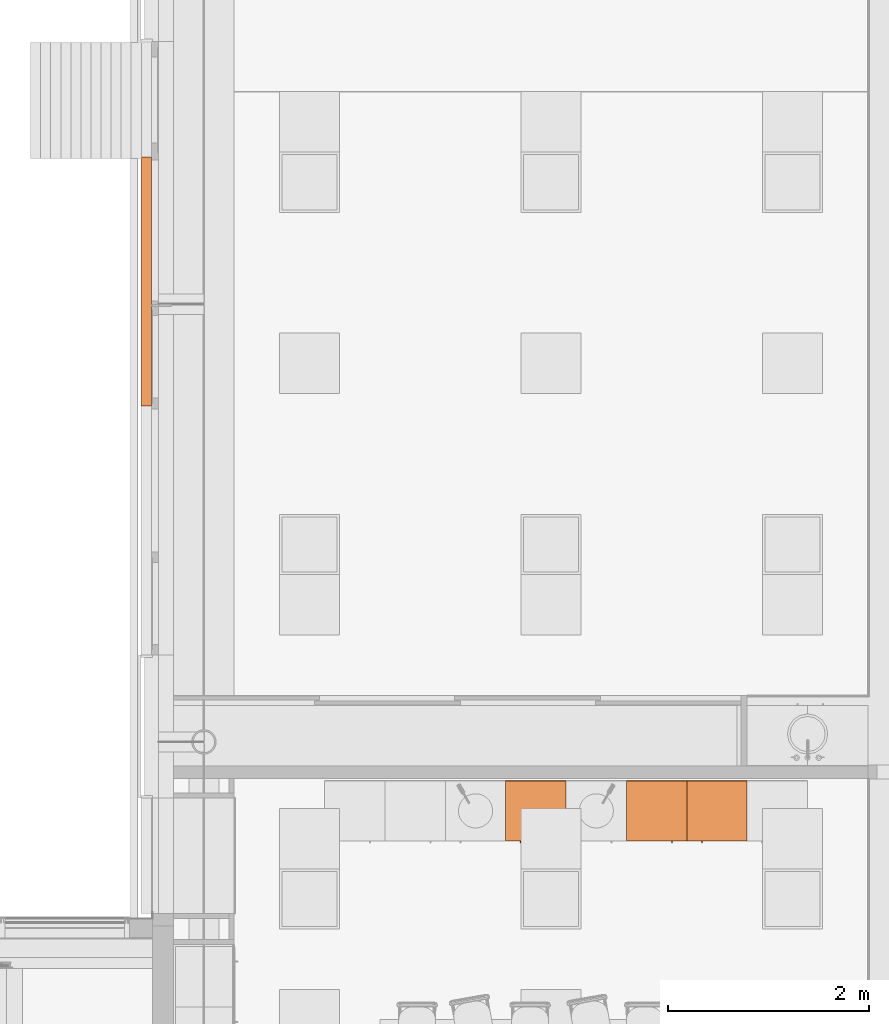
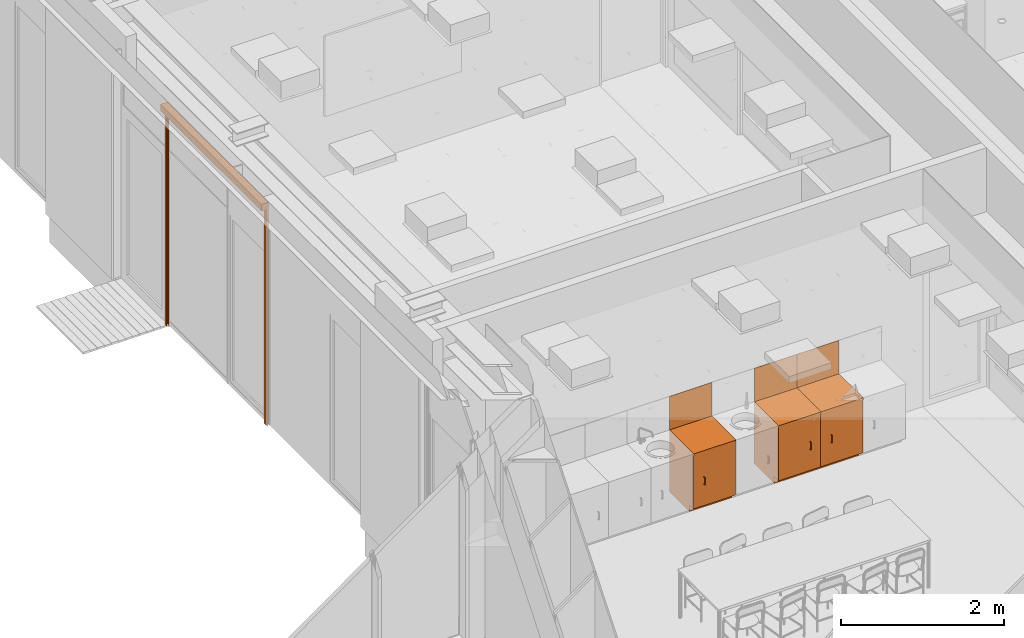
# One storey, part 345 of 347: 4 proxies.
"""IFC2X3 building model written with IfcOpenShell, lengths in millimetres."""

from ifc_helpers import new_model, entity, si_unit, converted_unit, derived_unit, money_unit, direction, frame, origin_with_axes, place, context, subcontext, project, spatial, open_shell, faceted_brep, surface_model, type_object, element, save


model = new_model("IFC2X3")

# Units and contexts
model_context = context("Model", 3, precision=0.01, world=origin_with_axes(), true_north=direction((0.0, 1.0)))
plan_context = context("Plan", 3, precision=0.01, world=origin_with_axes(), true_north=direction((0.0, 1.0)))
body_context = subcontext(model_context, "Body", "Model", "MODEL_VIEW")
ifc_project = project(units=[si_unit("LENGTHUNIT", "METRE", prefix="MILLI"), si_unit("AREAUNIT", "SQUARE_METRE"), si_unit("VOLUMEUNIT", "CUBIC_METRE"), converted_unit("PLANEANGLEUNIT", "DEGREE", entity("IfcPlaneAngleMeasure", 0.0174532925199), si_unit("PLANEANGLEUNIT", "RADIAN"), dimensions=[0, 0, 0, 0, 0, 0, 0]), money_unit("EUR"), converted_unit("TIMEUNIT", "Year", entity("IfcTimeMeasure", 31556926.0), si_unit("TIMEUNIT", "SECOND"), dimensions=[0, 0, 1, 0, 0, 0, 0]), si_unit("MASSUNIT", "GRAM", prefix="KILO"), si_unit("THERMODYNAMICTEMPERATUREUNIT", "DEGREE_CELSIUS"), si_unit("LUMINOUSINTENSITYUNIT", "LUMEN"), si_unit("ENERGYUNIT", "JOULE", prefix="MEGA"), derived_unit("THERMALCONDUCTANCEUNIT", [(si_unit("POWERUNIT", "WATT"), 1), (si_unit("LENGTHUNIT", "METRE"), -1), (si_unit("THERMODYNAMICTEMPERATUREUNIT", "KELVIN"), -1)]), derived_unit("SPECIFICHEATCAPACITYUNIT", [(si_unit("ENERGYUNIT", "JOULE"), 1), (si_unit("MASSUNIT", "GRAM", prefix="KILO"), -1), (si_unit("THERMODYNAMICTEMPERATUREUNIT", "KELVIN"), -1)]), derived_unit("MASSDENSITYUNIT", [(si_unit("MASSUNIT", "GRAM", prefix="KILO"), 1), (si_unit("VOLUMEUNIT", "CUBIC_METRE"), -1)])], contexts=[model_context, plan_context])

# Site, building, storey
site_placement = place(None, origin_with_axes())
site = spatial("IfcSite", under=ifc_project, at=site_placement, Name="Site", CompositionType="ELEMENT")
building_placement = place(site_placement, origin_with_axes())
building = spatial("IfcBuilding", under=site, at=building_placement, Name="Naam gebouw", CompositionType="ELEMENT")
storey_placement = place(building_placement, origin_with_axes())
storey = spatial("IfcBuildingStorey", under=building, at=storey_placement, Name="begane grond", CompositionType="ELEMENT", Elevation=0.0)

# Proxies
building_element_proxy_type_1 = type_object("IfcBuildingElementProxyType", Name="Onderkast recht 25", PredefinedType="NOTDEFINED")
proxy_1_placement = place(storey_placement, frame((28775.0, 19967.5, 0.0), z_axis=(0.0, 0.0, 1.0), x_axis=(1.0, 0.0, 0.0)))
element("IfcBuildingElementProxy", 1, at=proxy_1_placement, inside=storey, type_object=building_element_proxy_type_1, Name="_73 pantryblok", context=body_context, shape_type="Brep", body=[
    faceted_brep([(600.0, -492.0, 2.0), (600.0, 0.0, 2.0), (600.0, 0.0, 100.0), (600.0, -492.0, 100.0), (0.0, 0.0, 2.0), (0.0, -492.0, 2.0), (0.0, 0.0, 100.0), (0.0, -492.0, 100.0)], [[[0, 1, 2, 3]], [[4, 1, 0, 5]], [[1, 4, 6, 2]], [[6, 7, 3, 2]], [[5, 0, 3, 7]], [[4, 5, 7, 6]]]),
    faceted_brep([(0.0, -600.0, 900.0), (600.0, -600.0, 900.0), (600.0, -600.0, 930.0), (0.0, -600.0, 930.0), (0.0, 0.0, 900.0), (600.0, 0.0, 900.0), (600.0, 0.0, 930.0), (0.0, 0.0, 930.0)], [[[0, 1, 2, 3]], [[0, 4, 5, 1]], [[1, 5, 6, 2]], [[3, 2, 6, 7]], [[4, 0, 3, 7]], [[5, 4, 7, 6]]]),
    faceted_brep([(600.0, 0.0, 930.0), (600.0, -6.0, 930.0), (0.0, -6.0, 930.0), (0.0, 0.0, 930.0), (600.0, 0.0, 1430.0), (600.0, -6.0, 1430.0), (0.0, -6.0, 1430.0), (0.0, 0.0, 1430.0)], [[[0, 1, 2, 3]], [[0, 4, 5, 1]], [[1, 5, 6, 2]], [[3, 2, 6, 7]], [[4, 0, 3, 7]], [[5, 4, 7, 6]]]),
    faceted_brep([(446.0, -590.0, 416.0), (446.0, -590.0, 426.0), (456.0, -590.0, 426.0), (456.0, -590.0, 416.0), (446.0, -600.0, 416.0), (446.0, -603.472963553, 416.30384494), (446.0, -606.840402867, 417.206147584), (446.0, -610.0, 418.679491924), (446.0, -612.855752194, 420.679111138), (446.0, -615.320888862, 423.144247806), (446.0, -617.320508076, 426.0), (446.0, -618.793852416, 429.159597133), (446.0, -619.69615506, 432.527036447), (446.0, -620.0, 436.0), (446.0, -620.0, 516.0), (446.0, -619.69615506, 519.472963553), (446.0, -618.793852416, 522.840402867), (446.0, -617.320508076, 526.0), (446.0, -615.320888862, 528.855752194), (446.0, -612.855752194, 531.320888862), (446.0, -610.0, 533.320508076), (446.0, -606.840402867, 534.793852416), (446.0, -603.472963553, 535.69615506), (446.0, -600.0, 536.0), (446.0, -590.0, 536.0), (446.0, -590.0, 526.0), (446.0, -600.0, 526.0), (446.0, -601.736481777, 525.84807753), (446.0, -603.420201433, 525.396926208), (446.0, -605.0, 524.660254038), (446.0, -606.427876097, 523.660444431), (446.0, -607.660444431, 522.427876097), (446.0, -608.660254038, 521.0), (446.0, -609.396926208, 519.420201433), (446.0, -609.84807753, 517.736481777), (446.0, -610.0, 516.0), (446.0, -610.0, 436.0), (446.0, -609.84807753, 434.263518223), (446.0, -609.396926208, 432.579798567), (446.0, -608.660254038, 431.0), (446.0, -607.660444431, 429.572123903), (446.0, -606.427876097, 428.339555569), (446.0, -605.0, 427.339745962), (446.0, -603.420201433, 426.603073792), (446.0, -601.736481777, 426.15192247), (446.0, -600.0, 426.0), (456.0, -600.0, 426.0), (456.0, -601.736481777, 426.15192247), (456.0, -603.420201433, 426.603073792), (456.0, -605.0, 427.339745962), (456.0, -606.427876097, 428.339555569), (456.0, -607.660444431, 429.572123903), (456.0, -608.660254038, 431.0), (456.0, -609.396926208, 432.579798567), (456.0, -609.84807753, 434.263518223), (456.0, -610.0, 436.0), (456.0, -610.0, 516.0), (456.0, -609.84807753, 517.736481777), (456.0, -609.396926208, 519.420201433), (456.0, -608.660254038, 521.0), (456.0, -607.660444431, 522.427876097), (456.0, -606.427876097, 523.660444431), (456.0, -605.0, 524.660254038), (456.0, -603.420201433, 525.396926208), (456.0, -601.736481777, 525.84807753), (456.0, -600.0, 526.0), (456.0, -590.0, 526.0), (456.0, -590.0, 536.0), (456.0, -600.0, 536.0), (456.0, -603.472963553, 535.69615506), (456.0, -606.840402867, 534.793852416), (456.0, -610.0, 533.320508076), (456.0, -612.855752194, 531.320888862), (456.0, -615.320888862, 528.855752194), (456.0, -617.320508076, 526.0), (456.0, -618.793852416, 522.840402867), (456.0, -619.69615506, 519.472963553), (456.0, -620.0, 516.0), (456.0, -620.0, 436.0), (456.0, -619.69615506, 432.527036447), (456.0, -618.793852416, 429.159597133), (456.0, -617.320508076, 426.0), (456.0, -615.320888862, 423.144247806), (456.0, -612.855752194, 420.679111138), (456.0, -610.0, 418.679491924), (456.0, -606.840402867, 417.206147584), (456.0, -603.472963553, 416.30384494), (456.0, -600.0, 416.0)], [[[0, 1, 2, 3]], [[0, 4, 5, 6, 7, 8, 9, 10, 11, 12, 13, 14, 15, 16, 17, 18, 19, 20, 21, 22, 23, 24, 25, 26, 27, 28, 29, 30, 31, 32, 33, 34, 35, 36, 37, 38, 39, 40, 41, 42, 43, 44, 45, 1]], [[1, 45, 46, 2]], [[3, 2, 46, 47, 48, 49, 50, 51, 52, 53, 54, 55, 56, 57, 58, 59, 60, 61, 62, 63, 64, 65, 66, 67, 68, 69, 70, 71, 72, 73, 74, 75, 76, 77, 78, 79, 80, 81, 82, 83, 84, 85, 86, 87]], [[4, 0, 3, 87]], [[5, 4, 87, 86]], [[6, 5, 86, 85]], [[7, 6, 85, 84]], [[8, 7, 84, 83]], [[9, 8, 83, 82]], [[10, 9, 82, 81]], [[11, 10, 81, 80]], [[12, 11, 80, 79]], [[13, 12, 79, 78]], [[14, 13, 78, 77]], [[15, 14, 77, 76]], [[16, 15, 76, 75]], [[17, 16, 75, 74]], [[18, 17, 74, 73]], [[19, 18, 73, 72]], [[20, 19, 72, 71]], [[21, 20, 71, 70]], [[22, 21, 70, 69]], [[23, 22, 69, 68]], [[24, 23, 68, 67]], [[25, 24, 67, 66]], [[26, 25, 66, 65]], [[27, 26, 65, 64]], [[28, 27, 64, 63]], [[29, 28, 63, 62]], [[30, 29, 62, 61]], [[31, 30, 61, 60]], [[32, 31, 60, 59]], [[33, 32, 59, 58]], [[34, 33, 58, 57]], [[35, 34, 57, 56]], [[36, 35, 56, 55]], [[37, 36, 55, 54]], [[38, 37, 54, 53]], [[39, 38, 53, 52]], [[40, 39, 52, 51]], [[41, 40, 51, 50]], [[42, 41, 50, 49]], [[43, 42, 49, 48]], [[44, 43, 48, 47]], [[45, 44, 47, 46]]]),
    faceted_brep([(1.0, -572.0, 101.0), (599.0, -572.0, 101.0), (599.0, -590.0, 101.0), (1.0, -590.0, 101.0), (1.0, -572.0, 899.0), (599.0, -572.0, 899.0), (599.0, -590.0, 899.0), (1.0, -590.0, 899.0)], [[[0, 1, 2, 3]], [[0, 4, 5, 1]], [[1, 5, 6, 2]], [[3, 2, 6, 7]], [[4, 0, 3, 7]], [[5, 4, 7, 6]]]),
    faceted_brep([(18.0, -572.0, 100.0), (582.0, -572.0, 100.0), (582.0, -572.0, 118.0), (18.0, -572.0, 118.0), (18.0, 0.0, 100.0), (582.0, 0.0, 100.0), (582.0, 0.0, 118.0), (18.0, 0.0, 118.0)], [[[0, 1, 2, 3]], [[0, 4, 5, 1]], [[1, 5, 6, 2]], [[3, 2, 6, 7]], [[4, 0, 3, 7]], [[5, 4, 7, 6]]]),
    faceted_brep([(18.0, -572.0, 882.0), (18.0, -512.0, 882.0), (582.0, -512.0, 882.0), (582.0, -572.0, 882.0), (18.0, -572.0, 900.0), (18.0, -512.0, 900.0), (582.0, -512.0, 900.0), (582.0, -572.0, 900.0)], [[[0, 1, 2, 3]], [[0, 4, 5, 1]], [[1, 5, 6, 2]], [[3, 2, 6, 7]], [[4, 0, 3, 7]], [[5, 4, 7, 6]]]),
    faceted_brep([(582.0, 0.0, 882.0), (582.0, -60.0, 882.0), (18.0, -60.0, 882.0), (18.0, 0.0, 882.0), (582.0, 0.0, 900.0), (582.0, -60.0, 900.0), (18.0, -60.0, 900.0), (18.0, 0.0, 900.0)], [[[0, 1, 2, 3]], [[0, 4, 5, 1]], [[1, 5, 6, 2]], [[3, 2, 6, 7]], [[4, 0, 3, 7]], [[5, 4, 7, 6]]]),
    faceted_brep([(0.0, 0.0, 100.0), (0.0, -572.0, 100.0), (0.0, -572.0, 900.0), (0.0, 0.0, 900.0), (18.0, 0.0, 100.0), (18.0, -572.0, 100.0), (18.0, -572.0, 900.0), (18.0, 0.0, 900.0)], [[[0, 1, 2, 3]], [[0, 4, 5, 1]], [[1, 5, 6, 2]], [[3, 2, 6, 7]], [[4, 0, 3, 7]], [[5, 4, 7, 6]]]),
    faceted_brep([(600.0, -572.0, 100.0), (600.0, 0.0, 100.0), (600.0, 0.0, 900.0), (600.0, -572.0, 900.0), (582.0, -572.0, 100.0), (582.0, 0.0, 100.0), (582.0, 0.0, 900.0), (582.0, -572.0, 900.0)], [[[0, 1, 2, 3]], [[0, 4, 5, 1]], [[1, 5, 6, 2]], [[3, 2, 6, 7]], [[4, 0, 3, 7]], [[5, 4, 7, 6]]]),
    faceted_brep([(582.0, -9.0, 118.0), (18.0, -9.0, 118.0), (18.0, -9.0, 882.0), (582.0, -9.0, 882.0), (582.0, -18.0, 118.0), (18.0, -18.0, 118.0), (18.0, -18.0, 882.0), (582.0, -18.0, 882.0)], [[[0, 1, 2, 3]], [[0, 4, 5, 1]], [[1, 5, 6, 2]], [[3, 2, 6, 7]], [[4, 0, 3, 7]], [[5, 4, 7, 6]]]),
])
proxy_2_placement = place(storey_placement, frame((29975.0, 19967.5, 0.0), z_axis=(0.0, 0.0, 1.0), x_axis=(1.0, 0.0, 0.0)))
element("IfcBuildingElementProxy", 2, at=proxy_2_placement, inside=storey, type_object=building_element_proxy_type_1, Name="_73 pantryblok", context=body_context, shape_type="Brep", body=[
    faceted_brep([(0.0, -492.0, 2.0), (0.0, 0.0, 2.0), (0.0, 0.0, 100.0), (0.0, -492.0, 100.0), (-600.0, 0.0, 2.0), (-600.0, -492.0, 2.0), (-600.0, 0.0, 100.0), (-600.0, -492.0, 100.0)], [[[0, 1, 2, 3]], [[4, 1, 0, 5]], [[1, 4, 6, 2]], [[7, 3, 2, 6]], [[5, 0, 3, 7]], [[4, 5, 7, 6]]]),
    faceted_brep([(0.0, -600.0, 900.0), (0.0, -600.0, 930.0), (-600.0, -600.0, 930.0), (-600.0, -600.0, 900.0), (0.0, 0.0, 900.0), (0.0, 0.0, 930.0), (-600.0, 0.0, 930.0), (-600.0, 0.0, 900.0)], [[[0, 1, 2, 3]], [[4, 5, 1, 0]], [[1, 5, 6, 2]], [[3, 2, 6, 7]], [[0, 3, 7, 4]], [[7, 6, 5, 4]]]),
    faceted_brep([(-600.0, 0.0, 930.0), (0.0, 0.0, 930.0), (0.0, -6.0, 930.0), (-600.0, -6.0, 930.0), (-600.0, 0.0, 1430.0), (0.0, 0.0, 1430.0), (0.0, -6.0, 1430.0), (-600.0, -6.0, 1430.0)], [[[0, 1, 2, 3]], [[4, 5, 1, 0]], [[1, 5, 6, 2]], [[3, 2, 6, 7]], [[0, 3, 7, 4]], [[7, 6, 5, 4]]]),
    faceted_brep([(-446.0, -590.0, 416.0), (-456.0, -590.0, 416.0), (-456.0, -590.0, 426.0), (-446.0, -590.0, 426.0), (-446.0, -600.0, 416.0), (-456.0, -600.0, 416.0), (-456.0, -603.472963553, 416.30384494), (-456.0, -606.840402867, 417.206147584), (-456.0, -610.0, 418.679491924), (-456.0, -612.855752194, 420.679111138), (-456.0, -615.320888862, 423.144247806), (-456.0, -617.320508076, 426.0), (-456.0, -618.793852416, 429.159597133), (-456.0, -619.69615506, 432.527036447), (-456.0, -620.0, 436.0), (-456.0, -620.0, 516.0), (-456.0, -619.69615506, 519.472963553), (-456.0, -618.793852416, 522.840402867), (-456.0, -617.320508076, 526.0), (-456.0, -615.320888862, 528.855752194), (-456.0, -612.855752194, 531.320888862), (-456.0, -610.0, 533.320508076), (-456.0, -606.840402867, 534.793852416), (-456.0, -603.472963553, 535.69615506), (-456.0, -600.0, 536.0), (-456.0, -590.0, 536.0), (-456.0, -590.0, 526.0), (-456.0, -600.0, 526.0), (-456.0, -601.736481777, 525.84807753), (-456.0, -603.420201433, 525.396926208), (-456.0, -605.0, 524.660254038), (-456.0, -606.427876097, 523.660444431), (-456.0, -607.660444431, 522.427876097), (-456.0, -608.660254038, 521.0), (-456.0, -609.396926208, 519.420201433), (-456.0, -609.84807753, 517.736481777), (-456.0, -610.0, 516.0), (-456.0, -610.0, 436.0), (-456.0, -609.84807753, 434.263518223), (-456.0, -609.396926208, 432.579798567), (-456.0, -608.660254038, 431.0), (-456.0, -607.660444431, 429.572123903), (-456.0, -606.427876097, 428.339555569), (-456.0, -605.0, 427.339745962), (-456.0, -603.420201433, 426.603073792), (-456.0, -601.736481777, 426.15192247), (-456.0, -600.0, 426.0), (-446.0, -600.0, 426.0), (-446.0, -601.736481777, 426.15192247), (-446.0, -603.420201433, 426.603073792), (-446.0, -605.0, 427.339745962), (-446.0, -606.427876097, 428.339555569), (-446.0, -607.660444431, 429.572123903), (-446.0, -608.660254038, 431.0), (-446.0, -609.396926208, 432.579798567), (-446.0, -609.84807753, 434.263518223), (-446.0, -610.0, 436.0), (-446.0, -610.0, 516.0), (-446.0, -609.84807753, 517.736481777), (-446.0, -609.396926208, 519.420201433), (-446.0, -608.660254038, 521.0), (-446.0, -607.660444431, 522.427876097), (-446.0, -606.427876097, 523.660444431), (-446.0, -605.0, 524.660254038), (-446.0, -603.420201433, 525.396926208), (-446.0, -601.736481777, 525.84807753), (-446.0, -600.0, 526.0), (-446.0, -590.0, 526.0), (-446.0, -590.0, 536.0), (-446.0, -600.0, 536.0), (-446.0, -603.472963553, 535.69615506), (-446.0, -606.840402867, 534.793852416), (-446.0, -610.0, 533.320508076), (-446.0, -612.855752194, 531.320888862), (-446.0, -615.320888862, 528.855752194), (-446.0, -617.320508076, 526.0), (-446.0, -618.793852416, 522.840402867), (-446.0, -619.69615506, 519.472963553), (-446.0, -620.0, 516.0), (-446.0, -620.0, 436.0), (-446.0, -619.69615506, 432.527036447), (-446.0, -618.793852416, 429.159597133), (-446.0, -617.320508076, 426.0), (-446.0, -615.320888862, 423.144247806), (-446.0, -612.855752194, 420.679111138), (-446.0, -610.0, 418.679491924), (-446.0, -606.840402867, 417.206147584), (-446.0, -603.472963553, 416.30384494)], [[[0, 1, 2, 3]], [[4, 5, 1, 0]], [[1, 5, 6, 7, 8, 9, 10, 11, 12, 13, 14, 15, 16, 17, 18, 19, 20, 21, 22, 23, 24, 25, 26, 27, 28, 29, 30, 31, 32, 33, 34, 35, 36, 37, 38, 39, 40, 41, 42, 43, 44, 45, 46, 2]], [[3, 2, 46, 47]], [[0, 3, 47, 48, 49, 50, 51, 52, 53, 54, 55, 56, 57, 58, 59, 60, 61, 62, 63, 64, 65, 66, 67, 68, 69, 70, 71, 72, 73, 74, 75, 76, 77, 78, 79, 80, 81, 82, 83, 84, 85, 86, 87, 4]], [[87, 6, 5, 4]], [[86, 7, 6, 87]], [[85, 8, 7, 86]], [[84, 9, 8, 85]], [[83, 10, 9, 84]], [[82, 11, 10, 83]], [[81, 12, 11, 82]], [[80, 13, 12, 81]], [[79, 14, 13, 80]], [[78, 15, 14, 79]], [[77, 16, 15, 78]], [[76, 17, 16, 77]], [[75, 18, 17, 76]], [[74, 19, 18, 75]], [[73, 20, 19, 74]], [[72, 21, 20, 73]], [[71, 22, 21, 72]], [[70, 23, 22, 71]], [[69, 24, 23, 70]], [[68, 25, 24, 69]], [[67, 26, 25, 68]], [[66, 27, 26, 67]], [[65, 28, 27, 66]], [[64, 29, 28, 65]], [[63, 30, 29, 64]], [[62, 31, 30, 63]], [[61, 32, 31, 62]], [[60, 33, 32, 61]], [[59, 34, 33, 60]], [[58, 35, 34, 59]], [[57, 36, 35, 58]], [[56, 37, 36, 57]], [[55, 38, 37, 56]], [[54, 39, 38, 55]], [[53, 40, 39, 54]], [[52, 41, 40, 53]], [[51, 42, 41, 52]], [[50, 43, 42, 51]], [[49, 44, 43, 50]], [[48, 45, 44, 49]], [[47, 46, 45, 48]]]),
    faceted_brep([(-1.0, -572.0, 101.0), (-1.0, -590.0, 101.0), (-599.0, -590.0, 101.0), (-599.0, -572.0, 101.0), (-1.0, -572.0, 899.0), (-1.0, -590.0, 899.0), (-599.0, -590.0, 899.0), (-599.0, -572.0, 899.0)], [[[0, 1, 2, 3]], [[4, 5, 1, 0]], [[1, 5, 6, 2]], [[3, 2, 6, 7]], [[0, 3, 7, 4]], [[7, 6, 5, 4]]]),
    faceted_brep([(-18.0, -572.0, 100.0), (-18.0, -572.0, 118.0), (-582.0, -572.0, 118.0), (-582.0, -572.0, 100.0), (-18.0, 0.0, 100.0), (-18.0, 0.0, 118.0), (-582.0, 0.0, 118.0), (-582.0, 0.0, 100.0)], [[[0, 1, 2, 3]], [[4, 5, 1, 0]], [[1, 5, 6, 2]], [[3, 2, 6, 7]], [[0, 3, 7, 4]], [[7, 6, 5, 4]]]),
    faceted_brep([(-18.0, -572.0, 882.0), (-582.0, -572.0, 882.0), (-582.0, -512.0, 882.0), (-18.0, -512.0, 882.0), (-18.0, -572.0, 900.0), (-582.0, -572.0, 900.0), (-582.0, -512.0, 900.0), (-18.0, -512.0, 900.0)], [[[0, 1, 2, 3]], [[4, 5, 1, 0]], [[1, 5, 6, 2]], [[3, 2, 6, 7]], [[0, 3, 7, 4]], [[7, 6, 5, 4]]]),
    faceted_brep([(-582.0, 0.0, 882.0), (-18.0, 0.0, 882.0), (-18.0, -60.0, 882.0), (-582.0, -60.0, 882.0), (-582.0, 0.0, 900.0), (-18.0, 0.0, 900.0), (-18.0, -60.0, 900.0), (-582.0, -60.0, 900.0)], [[[0, 1, 2, 3]], [[4, 5, 1, 0]], [[1, 5, 6, 2]], [[3, 2, 6, 7]], [[0, 3, 7, 4]], [[7, 6, 5, 4]]]),
    faceted_brep([(0.0, 0.0, 100.0), (0.0, 0.0, 900.0), (0.0, -572.0, 900.0), (0.0, -572.0, 100.0), (-18.0, 0.0, 100.0), (-18.0, 0.0, 900.0), (-18.0, -572.0, 900.0), (-18.0, -572.0, 100.0)], [[[0, 1, 2, 3]], [[4, 5, 1, 0]], [[1, 5, 6, 2]], [[3, 2, 6, 7]], [[0, 3, 7, 4]], [[7, 6, 5, 4]]]),
    faceted_brep([(-600.0, -572.0, 100.0), (-600.0, -572.0, 900.0), (-600.0, 0.0, 900.0), (-600.0, 0.0, 100.0), (-582.0, -572.0, 100.0), (-582.0, -572.0, 900.0), (-582.0, 0.0, 900.0), (-582.0, 0.0, 100.0)], [[[0, 1, 2, 3]], [[4, 5, 1, 0]], [[1, 5, 6, 2]], [[3, 2, 6, 7]], [[0, 3, 7, 4]], [[7, 6, 5, 4]]]),
    faceted_brep([(-582.0, -9.0, 118.0), (-582.0, -9.0, 882.0), (-18.0, -9.0, 882.0), (-18.0, -9.0, 118.0), (-582.0, -18.0, 118.0), (-582.0, -18.0, 882.0), (-18.0, -18.0, 882.0), (-18.0, -18.0, 118.0)], [[[0, 1, 2, 3]], [[4, 5, 1, 0]], [[1, 5, 6, 2]], [[3, 2, 6, 7]], [[0, 3, 7, 4]], [[7, 6, 5, 4]]]),
])
proxy_3_placement = place(storey_placement, frame((28175.0, 19967.5, 0.0), z_axis=(0.0, 0.0, 1.0), x_axis=(1.0, 0.0, 0.0)))
element("IfcBuildingElementProxy", 3, at=proxy_3_placement, inside=storey, type_object=building_element_proxy_type_1, Name="_73 pantryblok", context=body_context, shape_type="Brep", body=[
    faceted_brep([(0.0, -492.0, 2.0), (0.0, 0.0, 2.0), (0.0, 0.0, 100.0), (0.0, -492.0, 100.0), (-600.0, 0.0, 2.0), (-600.0, -492.0, 2.0), (-600.0, 0.0, 100.0), (-600.0, -492.0, 100.0)], [[[0, 1, 2, 3]], [[4, 1, 0, 5]], [[1, 4, 6, 2]], [[7, 3, 2, 6]], [[5, 0, 3, 7]], [[4, 5, 7, 6]]]),
    faceted_brep([(0.0, -600.0, 900.0), (0.0, -600.0, 930.0), (-600.0, -600.0, 930.0), (-600.0, -600.0, 900.0), (0.0, 0.0, 900.0), (0.0, 0.0, 930.0), (-600.0, 0.0, 930.0), (-600.0, 0.0, 900.0)], [[[0, 1, 2, 3]], [[4, 5, 1, 0]], [[1, 5, 6, 2]], [[3, 2, 6, 7]], [[0, 3, 7, 4]], [[7, 6, 5, 4]]]),
    faceted_brep([(-600.0, 0.0, 930.0), (0.0, 0.0, 930.0), (0.0, -6.0, 930.0), (-600.0, -6.0, 930.0), (-600.0, 0.0, 1430.0), (0.0, 0.0, 1430.0), (0.0, -6.0, 1430.0), (-600.0, -6.0, 1430.0)], [[[0, 1, 2, 3]], [[4, 5, 1, 0]], [[1, 5, 6, 2]], [[3, 2, 6, 7]], [[0, 3, 7, 4]], [[7, 6, 5, 4]]]),
    faceted_brep([(-446.0, -590.0, 416.0), (-456.0, -590.0, 416.0), (-456.0, -590.0, 426.0), (-446.0, -590.0, 426.0), (-446.0, -600.0, 416.0), (-456.0, -600.0, 416.0), (-456.0, -603.472963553, 416.30384494), (-456.0, -606.840402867, 417.206147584), (-456.0, -610.0, 418.679491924), (-456.0, -612.855752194, 420.679111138), (-456.0, -615.320888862, 423.144247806), (-456.0, -617.320508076, 426.0), (-456.0, -618.793852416, 429.159597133), (-456.0, -619.69615506, 432.527036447), (-456.0, -620.0, 436.0), (-456.0, -620.0, 516.0), (-456.0, -619.69615506, 519.472963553), (-456.0, -618.793852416, 522.840402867), (-456.0, -617.320508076, 526.0), (-456.0, -615.320888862, 528.855752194), (-456.0, -612.855752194, 531.320888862), (-456.0, -610.0, 533.320508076), (-456.0, -606.840402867, 534.793852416), (-456.0, -603.472963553, 535.69615506), (-456.0, -600.0, 536.0), (-456.0, -590.0, 536.0), (-456.0, -590.0, 526.0), (-456.0, -600.0, 526.0), (-456.0, -601.736481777, 525.84807753), (-456.0, -603.420201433, 525.396926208), (-456.0, -605.0, 524.660254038), (-456.0, -606.427876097, 523.660444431), (-456.0, -607.660444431, 522.427876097), (-456.0, -608.660254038, 521.0), (-456.0, -609.396926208, 519.420201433), (-456.0, -609.84807753, 517.736481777), (-456.0, -610.0, 516.0), (-456.0, -610.0, 436.0), (-456.0, -609.84807753, 434.263518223), (-456.0, -609.396926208, 432.579798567), (-456.0, -608.660254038, 431.0), (-456.0, -607.660444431, 429.572123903), (-456.0, -606.427876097, 428.339555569), (-456.0, -605.0, 427.339745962), (-456.0, -603.420201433, 426.603073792), (-456.0, -601.736481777, 426.15192247), (-456.0, -600.0, 426.0), (-446.0, -600.0, 426.0), (-446.0, -601.736481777, 426.15192247), (-446.0, -603.420201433, 426.603073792), (-446.0, -605.0, 427.339745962), (-446.0, -606.427876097, 428.339555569), (-446.0, -607.660444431, 429.572123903), (-446.0, -608.660254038, 431.0), (-446.0, -609.396926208, 432.579798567), (-446.0, -609.84807753, 434.263518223), (-446.0, -610.0, 436.0), (-446.0, -610.0, 516.0), (-446.0, -609.84807753, 517.736481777), (-446.0, -609.396926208, 519.420201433), (-446.0, -608.660254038, 521.0), (-446.0, -607.660444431, 522.427876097), (-446.0, -606.427876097, 523.660444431), (-446.0, -605.0, 524.660254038), (-446.0, -603.420201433, 525.396926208), (-446.0, -601.736481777, 525.84807753), (-446.0, -600.0, 526.0), (-446.0, -590.0, 526.0), (-446.0, -590.0, 536.0), (-446.0, -600.0, 536.0), (-446.0, -603.472963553, 535.69615506), (-446.0, -606.840402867, 534.793852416), (-446.0, -610.0, 533.320508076), (-446.0, -612.855752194, 531.320888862), (-446.0, -615.320888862, 528.855752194), (-446.0, -617.320508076, 526.0), (-446.0, -618.793852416, 522.840402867), (-446.0, -619.69615506, 519.472963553), (-446.0, -620.0, 516.0), (-446.0, -620.0, 436.0), (-446.0, -619.69615506, 432.527036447), (-446.0, -618.793852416, 429.159597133), (-446.0, -617.320508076, 426.0), (-446.0, -615.320888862, 423.144247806), (-446.0, -612.855752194, 420.679111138), (-446.0, -610.0, 418.679491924), (-446.0, -606.840402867, 417.206147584), (-446.0, -603.472963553, 416.30384494)], [[[0, 1, 2, 3]], [[4, 5, 1, 0]], [[1, 5, 6, 7, 8, 9, 10, 11, 12, 13, 14, 15, 16, 17, 18, 19, 20, 21, 22, 23, 24, 25, 26, 27, 28, 29, 30, 31, 32, 33, 34, 35, 36, 37, 38, 39, 40, 41, 42, 43, 44, 45, 46, 2]], [[3, 2, 46, 47]], [[0, 3, 47, 48, 49, 50, 51, 52, 53, 54, 55, 56, 57, 58, 59, 60, 61, 62, 63, 64, 65, 66, 67, 68, 69, 70, 71, 72, 73, 74, 75, 76, 77, 78, 79, 80, 81, 82, 83, 84, 85, 86, 87, 4]], [[87, 6, 5, 4]], [[86, 7, 6, 87]], [[85, 8, 7, 86]], [[84, 9, 8, 85]], [[83, 10, 9, 84]], [[82, 11, 10, 83]], [[81, 12, 11, 82]], [[80, 13, 12, 81]], [[79, 14, 13, 80]], [[78, 15, 14, 79]], [[77, 16, 15, 78]], [[76, 17, 16, 77]], [[75, 18, 17, 76]], [[74, 19, 18, 75]], [[73, 20, 19, 74]], [[72, 21, 20, 73]], [[71, 22, 21, 72]], [[70, 23, 22, 71]], [[69, 24, 23, 70]], [[68, 25, 24, 69]], [[67, 26, 25, 68]], [[66, 27, 26, 67]], [[65, 28, 27, 66]], [[64, 29, 28, 65]], [[63, 30, 29, 64]], [[62, 31, 30, 63]], [[61, 32, 31, 62]], [[60, 33, 32, 61]], [[59, 34, 33, 60]], [[58, 35, 34, 59]], [[57, 36, 35, 58]], [[56, 37, 36, 57]], [[55, 38, 37, 56]], [[54, 39, 38, 55]], [[53, 40, 39, 54]], [[52, 41, 40, 53]], [[51, 42, 41, 52]], [[50, 43, 42, 51]], [[49, 44, 43, 50]], [[48, 45, 44, 49]], [[47, 46, 45, 48]]]),
    faceted_brep([(-1.0, -572.0, 101.0), (-1.0, -590.0, 101.0), (-599.0, -590.0, 101.0), (-599.0, -572.0, 101.0), (-1.0, -572.0, 899.0), (-1.0, -590.0, 899.0), (-599.0, -590.0, 899.0), (-599.0, -572.0, 899.0)], [[[0, 1, 2, 3]], [[4, 5, 1, 0]], [[1, 5, 6, 2]], [[3, 2, 6, 7]], [[0, 3, 7, 4]], [[7, 6, 5, 4]]]),
    faceted_brep([(-18.0, -572.0, 100.0), (-18.0, -572.0, 118.0), (-582.0, -572.0, 118.0), (-582.0, -572.0, 100.0), (-18.0, 0.0, 100.0), (-18.0, 0.0, 118.0), (-582.0, 0.0, 118.0), (-582.0, 0.0, 100.0)], [[[0, 1, 2, 3]], [[4, 5, 1, 0]], [[1, 5, 6, 2]], [[3, 2, 6, 7]], [[0, 3, 7, 4]], [[7, 6, 5, 4]]]),
    faceted_brep([(-18.0, -572.0, 882.0), (-582.0, -572.0, 882.0), (-582.0, -512.0, 882.0), (-18.0, -512.0, 882.0), (-18.0, -572.0, 900.0), (-582.0, -572.0, 900.0), (-582.0, -512.0, 900.0), (-18.0, -512.0, 900.0)], [[[0, 1, 2, 3]], [[4, 5, 1, 0]], [[1, 5, 6, 2]], [[3, 2, 6, 7]], [[0, 3, 7, 4]], [[7, 6, 5, 4]]]),
    faceted_brep([(-582.0, 0.0, 882.0), (-18.0, 0.0, 882.0), (-18.0, -60.0, 882.0), (-582.0, -60.0, 882.0), (-582.0, 0.0, 900.0), (-18.0, 0.0, 900.0), (-18.0, -60.0, 900.0), (-582.0, -60.0, 900.0)], [[[0, 1, 2, 3]], [[4, 5, 1, 0]], [[1, 5, 6, 2]], [[3, 2, 6, 7]], [[0, 3, 7, 4]], [[7, 6, 5, 4]]]),
    faceted_brep([(0.0, 0.0, 100.0), (0.0, 0.0, 900.0), (0.0, -572.0, 900.0), (0.0, -572.0, 100.0), (-18.0, 0.0, 100.0), (-18.0, 0.0, 900.0), (-18.0, -572.0, 900.0), (-18.0, -572.0, 100.0)], [[[0, 1, 2, 3]], [[4, 5, 1, 0]], [[1, 5, 6, 2]], [[3, 2, 6, 7]], [[0, 3, 7, 4]], [[7, 6, 5, 4]]]),
    faceted_brep([(-600.0, -572.0, 100.0), (-600.0, -572.0, 900.0), (-600.0, 0.0, 900.0), (-600.0, 0.0, 100.0), (-582.0, -572.0, 100.0), (-582.0, -572.0, 900.0), (-582.0, 0.0, 900.0), (-582.0, 0.0, 100.0)], [[[0, 1, 2, 3]], [[4, 5, 1, 0]], [[1, 5, 6, 2]], [[3, 2, 6, 7]], [[0, 3, 7, 4]], [[7, 6, 5, 4]]]),
    faceted_brep([(-582.0, -9.0, 118.0), (-582.0, -9.0, 882.0), (-18.0, -9.0, 882.0), (-18.0, -9.0, 118.0), (-582.0, -18.0, 118.0), (-582.0, -18.0, 882.0), (-18.0, -18.0, 882.0), (-18.0, -18.0, 118.0)], [[[0, 1, 2, 3]], [[4, 5, 1, 0]], [[1, 5, 6, 2]], [[3, 2, 6, 7]], [[0, 3, 7, 4]], [[7, 6, 5, 4]]]),
])
building_element_proxy_type_2 = type_object("IfcBuildingElementProxyType", Name="Screen 25 KM", PredefinedType="NOTDEFINED")
proxy_4_placement = place(storey_placement, frame((24052.0, 23687.4999997, -10.0), z_axis=(0.0, 0.0, 1.0), x_axis=(0.0, -1.0, 0.0)))
element("IfcBuildingElementProxy", 4, at=proxy_4_placement, inside=storey, type_object=building_element_proxy_type_2, Name="_78 garderobe", context=body_context, shape_type="SurfaceModel", body=[
    faceted_brep([(0.0, 0.0, 0.0), (0.0, 0.0, 3220.0), (0.0, -40.0, 3220.0), (0.0, -40.0, 0.0), (-38.0, 0.0, 0.0), (-38.0, 0.0, 3220.0), (-38.0, -10.0, 3220.0), (-35.0, -10.0, 3220.0), (-35.0, -3.0, 3220.0), (-3.0, -3.0, 3220.0), (-3.0, -37.0, 3220.0), (-35.0, -37.0, 3220.0), (-35.0, -30.0, 3220.0), (-38.0, -30.0, 3220.0), (-38.0, -40.0, 3220.0), (-38.0, -40.0, 0.0), (-38.0, -30.0, 0.0), (-35.0, -30.0, 0.0), (-35.0, -37.0, 0.0), (-3.0, -37.0, 0.0), (-3.0, -3.0, 0.0), (-35.0, -3.0, 0.0), (-35.0, -10.0, 0.0), (-38.0, -10.0, 0.0)], [[[0, 1, 2, 3]], [[4, 5, 1, 0]], [[1, 5, 6, 7, 8, 9, 10, 11, 12, 13, 14, 2]], [[3, 2, 14, 15]], [[0, 3, 15, 16, 17, 18, 19, 20, 21, 22, 23, 4]], [[23, 6, 5, 4]], [[22, 7, 6, 23]], [[21, 8, 7, 22]], [[20, 9, 8, 21]], [[19, 10, 9, 20]], [[18, 11, 10, 19]], [[17, 12, 11, 18]], [[16, 13, 12, 17]], [[15, 14, 13, 16]]]),
    faceted_brep([(-2475.00000034, 0.0, 0.0), (-2475.00000034, -40.0, 0.0), (-2475.00000034, -40.0, 3220.0), (-2475.00000034, 0.0, 3220.0), (-2437.00000034, 0.0, 0.0), (-2437.00000034, -10.0, 0.0), (-2440.00000034, -10.0, 0.0), (-2440.00000034, -3.0, 0.0), (-2472.00000034, -3.0, 0.0), (-2472.00000034, -37.0, 0.0), (-2440.00000034, -37.0, 0.0), (-2440.00000034, -30.0, 0.0), (-2437.00000034, -30.0, 0.0), (-2437.00000034, -40.0, 0.0), (-2437.00000034, -40.0, 3220.0), (-2437.00000034, -30.0, 3220.0), (-2440.00000034, -30.0, 3220.0), (-2440.00000034, -37.0, 3220.0), (-2472.00000034, -37.0, 3220.0), (-2472.00000034, -3.0, 3220.0), (-2440.00000034, -3.0, 3220.0), (-2440.00000034, -10.0, 3220.0), (-2437.00000034, -10.0, 3220.0), (-2437.00000034, 0.0, 3220.0)], [[[0, 1, 2, 3]], [[0, 4, 5, 6, 7, 8, 9, 10, 11, 12, 13, 1]], [[1, 13, 14, 2]], [[3, 2, 14, 15, 16, 17, 18, 19, 20, 21, 22, 23]], [[4, 0, 3, 23]], [[5, 4, 23, 22]], [[6, 5, 22, 21]], [[7, 6, 21, 20]], [[8, 7, 20, 19]], [[9, 8, 19, 18]], [[10, 9, 18, 17]], [[11, 10, 17, 16]], [[12, 11, 16, 15]], [[13, 12, 15, 14]]]),
    surface_model("IfcShellBasedSurfaceModel", [(0.0, 0.0, 3320.0), (0.0, -100.0, 3320.0), (0.0, -100.0, 3220.0), (0.0, 0.0, 3220.0)], [open_shell([[[0, 1, 2, 3]]])]),
    surface_model("IfcShellBasedSurfaceModel", [(-0.01, 0.0, 3320.0), (-2474.99000034, 0.0, 3320.0), (-2474.99000034, -100.0, 3320.0), (-0.00999999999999, -100.0, 3320.0), (-0.01, 0.0, 3223.0), (-2474.99000034, 0.0, 3223.0), (-2474.99000034, -6.0, 3223.0), (-2474.99000034, -6.0, 3226.0), (-2474.99000034, -3.0, 3226.0), (-2474.99000034, -3.0, 3317.0), (-2474.99000034, -97.0, 3317.0), (-2474.99000034, -97.0, 3223.0), (-2474.99000034, -40.0, 3223.0), (-2474.99000034, -40.0, 3217.0), (-2474.99000034, -43.0, 3217.0), (-2474.99000034, -43.0, 3220.0), (-2474.99000034, -100.0, 3220.0), (-0.01, -100.0, 3220.0), (-0.01, -43.0, 3220.0), (-0.01, -43.0, 3217.0), (-0.01, -40.0, 3217.0), (-0.01, -40.0, 3223.0), (-0.01, -97.0, 3223.0), (-0.00999999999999, -97.0, 3317.0), (-0.01, -3.0, 3317.0), (-0.01, -3.0, 3226.0), (-0.01, -6.0, 3226.0), (-0.01, -6.0, 3223.0)], [open_shell([[[0, 1, 2, 3]], [[4, 5, 1, 0]], [[1, 5, 6, 7, 8, 9, 10, 11, 12, 13, 14, 15, 16, 2]], [[3, 2, 16, 17]], [[0, 3, 17, 18, 19, 20, 21, 22, 23, 24, 25, 26, 27, 4]], [[19, 14, 13, 20]], [[18, 15, 14, 19]], [[17, 16, 15, 18]]])]),
    surface_model("IfcShellBasedSurfaceModel", [(-2474.99000034, 0.0, 3320.0), (-2474.99000034, -100.0, 3320.0), (-2474.99000034, -100.0, 3220.0), (-2474.99000034, 0.0, 3220.0)], [open_shell([[[0, 1, 2, 3]]])]),
])

save(model, "model.ifc")
